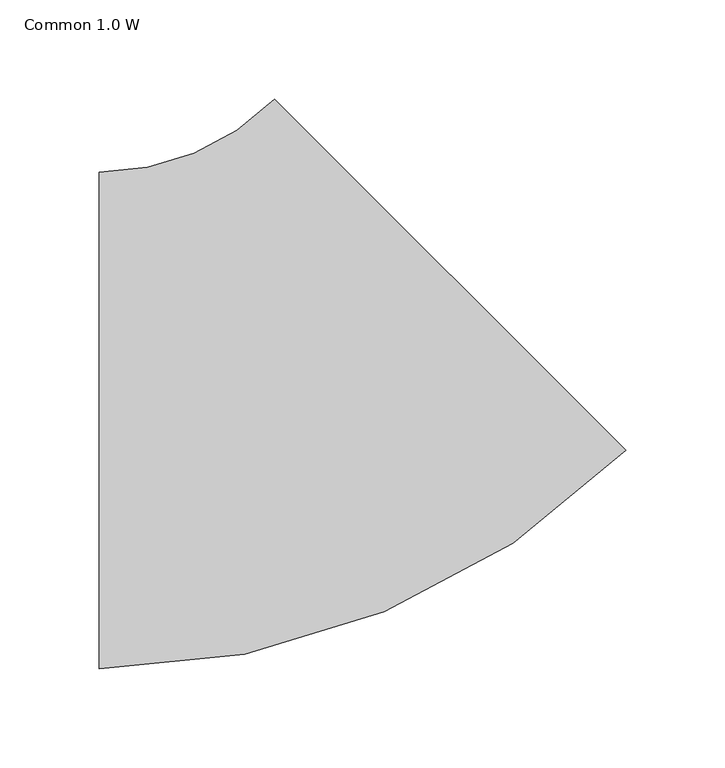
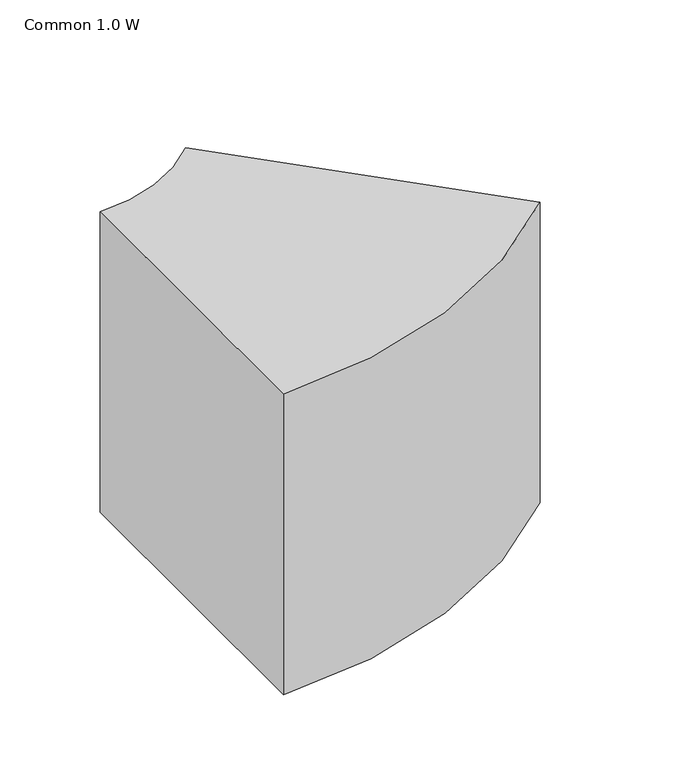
"""IFC4 building model written with IfcOpenShell, lengths in millimetres: duct fitting geometry, 011_角型エルボ - 半径 : Common 1.0 W."""

import ifcopenshell
import ifcopenshell.guid

model = None  # the IFC model being written
_history = None  # IfcOwnerHistory: only IFC2X3 demands one
_inside = {}  # id of a spatial element -> (the spatial element, [elements in it])
_under = {}  # id of a project, library or spatial element -> (it, [spatial elements below it])
_declared = {}  # id of a project -> (the project, [libraries it declares])
_typed = {}  # id of a type object -> (the type object, [elements of that type])
_made_of = {}  # id of a material, layer set ... -> (it, [elements and type objects made of it])


def new_model(schema):
    """Start an empty IFC model of exactly this schema.

    Asked for "IFC4X3", IfcOpenShell would pick the latest addendum, in which some entities
    have other attributes; the version numbers below select the first issue.
    IFC2X3 requires an IfcOwnerHistory on every rooted entity: one is made here for all.
    """
    global model, _history
    if schema == "IFC4X3":
        model = ifcopenshell.file(schema_version=(4, 3, 0, 0))
    else:
        model = ifcopenshell.file(schema=schema)
    _inside.clear()
    _under.clear()
    _declared.clear()
    _typed.clear()
    _made_of.clear()
    _history = None
    if model.schema == "IFC2X3":
        org = make("IfcOrganization", Name="unknown")
        user = make(
            "IfcPersonAndOrganization",
            ThePerson=make("IfcPerson", FamilyName="unknown"),
            TheOrganization=org,
        )
        app = make(
            "IfcApplication",
            ApplicationDeveloper=org,
            Version="unknown",
            ApplicationFullName="unknown",
            ApplicationIdentifier="unknown",
        )
        _history = make(
            "IfcOwnerHistory",
            OwningUser=user,
            OwningApplication=app,
            ChangeAction="ADDED",
            CreationDate=0,
        )
    return model


def make(cls, **values):
    """One entity of the class cls with the attributes given. An attribute that is None is left unset."""
    return model.create_entity(
        cls, **{name: value for name, value in values.items() if value is not None}
    )


def rooted(cls, **values):
    """An entity with a GlobalId (a new one), such as an element, a storey or a relation."""
    return make(cls, GlobalId=ifcopenshell.guid.new(), OwnerHistory=_history, **values)


def si_unit(unit_type, name, prefix=None):
    """IfcSIUnit, for example si_unit("LENGTHUNIT", "METRE", prefix="MILLI")."""
    return make("IfcSIUnit", UnitType=unit_type, Prefix=prefix, Name=name)


def assignment(units):
    """IfcUnitAssignment: the units of a project."""
    return None if units is None else make("IfcUnitAssignment", Units=units)


def point(xyz):
    """IfcCartesianPoint."""
    return None if xyz is None else make("IfcCartesianPoint", Coordinates=xyz)


def direction(xyz):
    """IfcDirection."""
    return None if xyz is None else make("IfcDirection", DirectionRatios=xyz)


def frame(location, z_axis=None, x_axis=None):
    """IfcAxis2Placement3D, a coordinate frame: its origin and axes. An axis left out is left unset."""
    return make(
        "IfcAxis2Placement3D",
        Location=point(location),
        Axis=direction(z_axis),
        RefDirection=direction(x_axis),
    )


def frame_2d(location, x_axis=None):
    """IfcAxis2Placement2D, a coordinate frame in the plane: its origin and x axis."""
    return make(
        "IfcAxis2Placement2D", Location=point(location), RefDirection=direction(x_axis)
    )


def origin():
    """The frame at (0, 0, 0) with its axes left unset."""
    return frame((0.0, 0.0, 0.0))


def place(relative_to, where):
    """IfcLocalPlacement: puts the frame where relative to a parent placement (None: the world)."""
    return make(
        "IfcLocalPlacement", PlacementRelTo=relative_to, RelativePlacement=where
    )


def context(
    kind, dimensions, precision=None, world=None, true_north=None, identifier=None
):
    """IfcGeometricRepresentationContext, for example the 3D "Model" context."""
    return make(
        "IfcGeometricRepresentationContext",
        ContextIdentifier=identifier,
        ContextType=kind,
        CoordinateSpaceDimension=dimensions,
        Precision=precision,
        WorldCoordinateSystem=world,
        TrueNorth=true_north,
    )


def project(units=None, contexts=None):
    """IfcProject with its units and contexts."""
    return rooted(
        "IfcProject",
        Name="project",
        RepresentationContexts=contexts,
        UnitsInContext=assignment(units),
    )


def spatial(cls, under=None, at=None, **own):
    """A site, building, storey or space (cls), placed at a placement, below another one or the project."""
    s = rooted(cls, ObjectPlacement=at, **own)
    if under is not None:
        _under.setdefault(under.id(), (under, []))[1].append(s)
    return s


def polyline(points):
    """IfcPolyline through the points."""
    return make("IfcPolyline", Points=[point(p) for p in points])


def circle_curve(where, radius):
    """IfcCircle in the frame where."""
    return make("IfcCircle", Position=where, Radius=radius)


def trimmed(basis, trim1, trim2, sense, master):
    """IfcTrimmedCurve: the piece of a basis curve between two trims."""
    return make(
        "IfcTrimmedCurve",
        BasisCurve=basis,
        Trim1=trim1,
        Trim2=trim2,
        SenseAgreement=sense,
        MasterRepresentation=master,
    )


def segment(curve, same_sense, transition):
    """IfcCompositeCurveSegment."""
    return make(
        "IfcCompositeCurveSegment",
        Transition=transition,
        SameSense=same_sense,
        ParentCurve=curve,
    )


def composite_curve(segments, self_intersect=None):
    """IfcCompositeCurve: segments joined end to end."""
    return make("IfcCompositeCurve", Segments=segments, SelfIntersect=self_intersect)


def outline(outer, holes=None, kind="AREA"):
    """IfcArbitraryClosedProfileDef: a profile drawn as a closed curve; with holes, ...WithVoids."""
    if holes is None:
        return make("IfcArbitraryClosedProfileDef", ProfileType=kind, OuterCurve=outer)
    return make(
        "IfcArbitraryProfileDefWithVoids",
        ProfileType=kind,
        OuterCurve=outer,
        InnerCurves=holes,
    )


def extrude(swept, where, along, depth):
    """IfcExtrudedAreaSolid: the profile swept, set in the frame where, extruded along a direction by depth."""
    return make(
        "IfcExtrudedAreaSolid",
        SweptArea=swept,
        Position=where,
        ExtrudedDirection=direction(along),
        Depth=depth,
    )


def shape(context_of_items, identifier, shape_type, items):
    """IfcShapeRepresentation: the items that make up one representation, for example the "Body"."""
    return make(
        "IfcShapeRepresentation",
        ContextOfItems=context_of_items,
        RepresentationIdentifier=identifier,
        RepresentationType=shape_type,
        Items=items,
    )


def source(mapping_origin, context_of_items, identifier, shape_type, items):
    """IfcRepresentationMap: a shape defined once, which mapped items show again and again."""
    return make(
        "IfcRepresentationMap",
        MappingOrigin=mapping_origin,
        MappedRepresentation=shape(context_of_items, identifier, shape_type, items),
    )


def transform(
    local_origin,
    x_axis=None,
    y_axis=None,
    z_axis=None,
    scale=None,
    scale2=None,
    scale3=None,
    uniform=True,
):
    """IfcCartesianTransformationOperator3D, or its non-uniform kind. x_axis, y_axis, z_axis: its Axis1, 2, 3."""
    if uniform:
        return make(
            "IfcCartesianTransformationOperator3D",
            Axis1=direction(x_axis),
            Axis2=direction(y_axis),
            LocalOrigin=point(local_origin),
            Scale=scale,
            Axis3=direction(z_axis),
        )
    return make(
        "IfcCartesianTransformationOperator3DnonUniform",
        Axis1=direction(x_axis),
        Axis2=direction(y_axis),
        LocalOrigin=point(local_origin),
        Scale=scale,
        Axis3=direction(z_axis),
        Scale2=scale2,
        Scale3=scale3,
    )


def mapped(mapping_source, mapping_target):
    """IfcMappedItem: shows the shape of a source again, moved by a transform."""
    return make(
        "IfcMappedItem", MappingSource=mapping_source, MappingTarget=mapping_target
    )


def made_of(thing, what):
    """Note that an element or type object is made of a material, layer set ...; save() writes the relation."""
    if what is not None:
        _made_of.setdefault(what.id(), (what, []))[1].append(thing)
    return thing


def element(
    cls,
    number,
    at=None,
    inside=None,
    cuts=None,
    type_object=None,
    material=None,
    context=None,
    identifier="Body",
    shape_type=None,
    held_by="IfcProductDefinitionShape",
    body=None,
    shapes=None,
    **own,
):
    """One element of the class cls, such as IfcWall. Its Tag is "e" and its number.

    at: its placement. inside: the storey or other place that contains it. cuts: it is an
    opening in that element (IfcRelVoidsElement). A single representation is given by context,
    identifier, shape_type and body (its items); several are given by shapes. held_by: the class
    of the entity that holds the representations. save() writes the other relations.
    """
    e = rooted(cls, Tag="e%d" % number, ObjectPlacement=at, **own)
    if body is not None:
        shapes = [shape(context, identifier, shape_type, body)]
    if shapes is not None:
        e.Representation = make(held_by, Representations=shapes)
    if inside is not None:
        _inside.setdefault(inside.id(), (inside, []))[1].append(e)
    if cuts is not None:
        rooted(
            "IfcRelVoidsElement", RelatingBuildingElement=cuts, RelatedOpeningElement=e
        )
    if type_object is not None:
        _typed.setdefault(type_object.id(), (type_object, []))[1].append(e)
    return made_of(e, material)


def aggregate(whole, parts):
    """IfcRelAggregates: a whole, such as a stair, and the parts it consists of."""
    return rooted("IfcRelAggregates", RelatingObject=whole, RelatedObjects=parts)


def save(model, path):
    """Write the relations noted so far, then the file.

    IfcRelAggregates (storeys below a building ...), IfcRelContainedInSpatialStructure (elements
    in a storey), IfcRelDefinesByType, IfcRelAssociatesMaterial and IfcRelDeclares: one each for
    every whole, place, type object, material and project.
    """
    for whole, parts in _under.values():
        aggregate(whole, parts)
    for where, things in _inside.values():
        rooted(
            "IfcRelContainedInSpatialStructure",
            RelatedElements=things,
            RelatingStructure=where,
        )
    for kind, things in _typed.values():
        rooted("IfcRelDefinesByType", RelatedObjects=things, RelatingType=kind)
    for what, things in _made_of.values():
        rooted("IfcRelAssociatesMaterial", RelatedObjects=things, RelatingMaterial=what)
    for by, libraries in _declared.values():
        rooted("IfcRelDeclares", RelatingContext=by, RelatedDefinitions=libraries)
    model.write(path)


def common_1_0_w_722c6ce1(model_context):
    return source(origin(), model_context, "Body", "SweptSolid", [
        extrude(outline(composite_curve([segment(trimmed(circle_curve(frame_2d((-103.5533906, 250.0)), 375.0), [point((161.6116524, -15.1650429))], [point((-103.5533906, -125.0))], False, "CARTESIAN"), True, "CONTINUOUS"), segment(polyline([(-103.5533906, -125.0), (-103.5533906, 125.0)]), True, "CONTINUOUS"), segment(trimmed(circle_curve(frame_2d((-103.5533906, 250.0)), 125.0), [point((-103.5533906, 125.0))], [point((-15.1650429, 161.6116524))], True, "CARTESIAN"), True, "CONTINUOUS"), segment(polyline([(-15.1650429, 161.6116524), (161.6116524, -15.1650429)]), True, "CONTINUOUS")], self_intersect=False)), frame((0.0, 0.0, -125.0), z_axis=(0.0, 0.0, 1.0), x_axis=(1.0, 0.0, 0.0)), (0.0, 0.0, 1.0), 250.0),
    ])


if __name__ == "__main__":
    model = new_model("IFC4")
    model_context = context("Model", 3, world=origin())
    ifc_project = project(units=[si_unit("LENGTHUNIT", "METRE", prefix="MILLI")], contexts=[model_context])
    site = spatial("IfcSite", under=ifc_project)
    building = spatial("IfcBuilding", under=site)
    placement = place(None, origin())
    common_1_0_w_shape = common_1_0_w_722c6ce1(model_context)
    element("IfcDuctFitting", 1, ObjectType="011_角型エルボ - 半径 : Common 1.0 W", at=placement, inside=building, context=model_context, shape_type="MappedRepresentation", body=[
        mapped(common_1_0_w_shape, transform((0.0, 0.0, 0.0), x_axis=(1.0, 0.0, 0.0), y_axis=(0.0, 1.0, 0.0), z_axis=(0.0, 0.0, 1.0))),
    ])
    save(model, "model.ifc")
